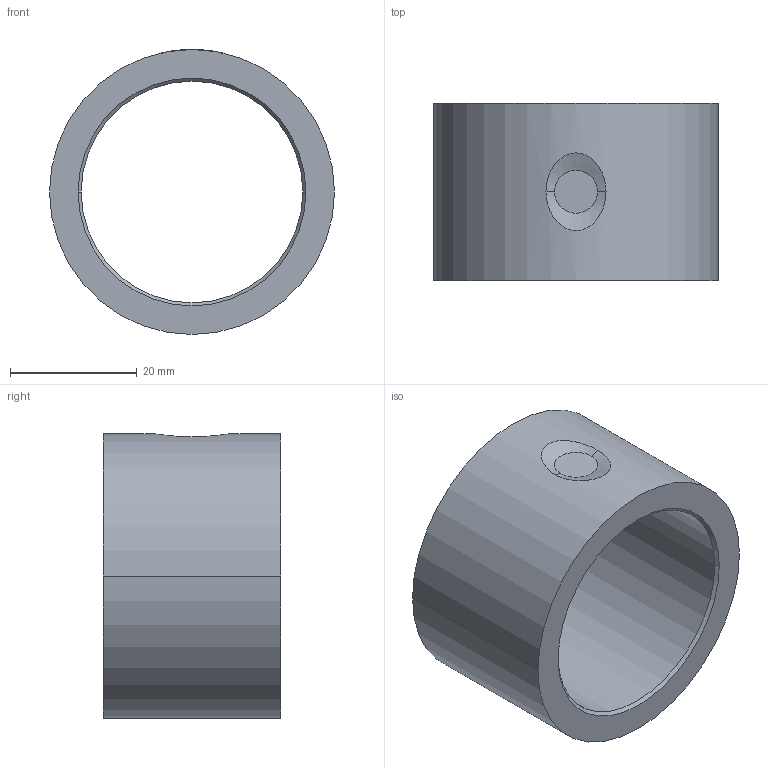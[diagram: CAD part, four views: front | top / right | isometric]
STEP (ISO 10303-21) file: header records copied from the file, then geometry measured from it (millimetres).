
FILE_DESCRIPTION(('FreeCAD Model'),'2;1');
FILE_NAME('Open CASCADE Shape Model','2026-07-02T19:54:25',(''),(''), 'Open CASCADE STEP processor 7.8','FreeCAD','Unknown');
FILE_SCHEMA(('AP242_MANAGED_MODEL_BASED_3D_ENGINEERING_MIM_LF. {1 0 10303 442 1 1 4 }'));
Length unit declared in the file: millimetre
Products named in the file (1): 75T0026
Bounding box: 45 x 28 x 45 mm (x, y, z)
Volume: 17508.4 mm3; surface area: 8233 mm2
Topology: 1 solids, 1 shells, 13 faces, 26 edges, 16 vertices
Faces by surface type: cone 6, cylinder 4, plane 3
Entity records: 504 total; most frequent: CARTESIAN_POINT 196, DIRECTION 66, ORIENTED_EDGE 52, AXIS2_PLACEMENT_3D 28, EDGE_CURVE 26, FACE_BOUND 16, EDGE_LOOP 16, VERTEX_POINT 16
